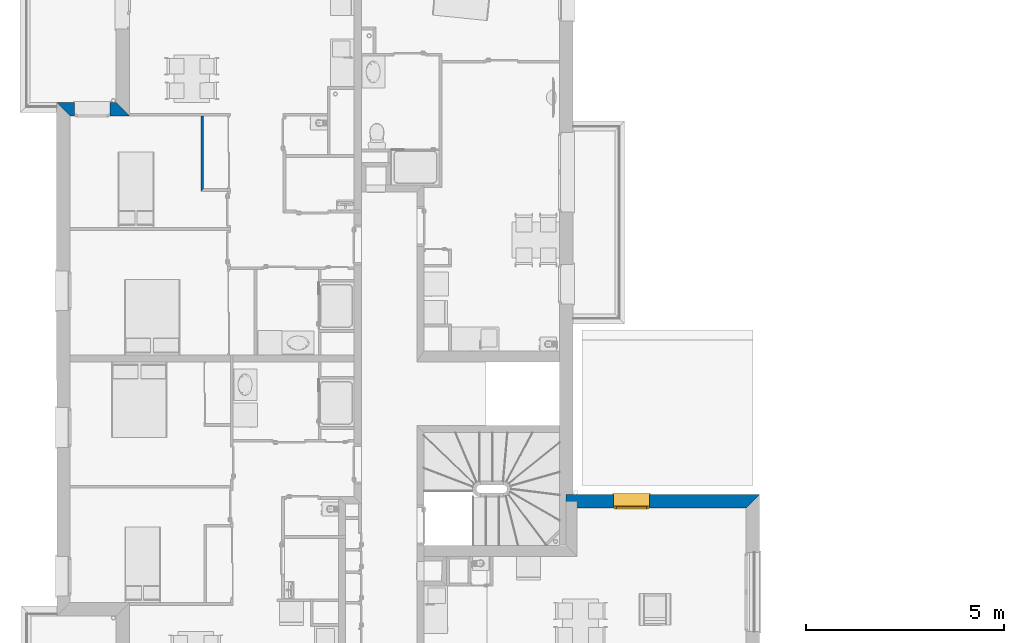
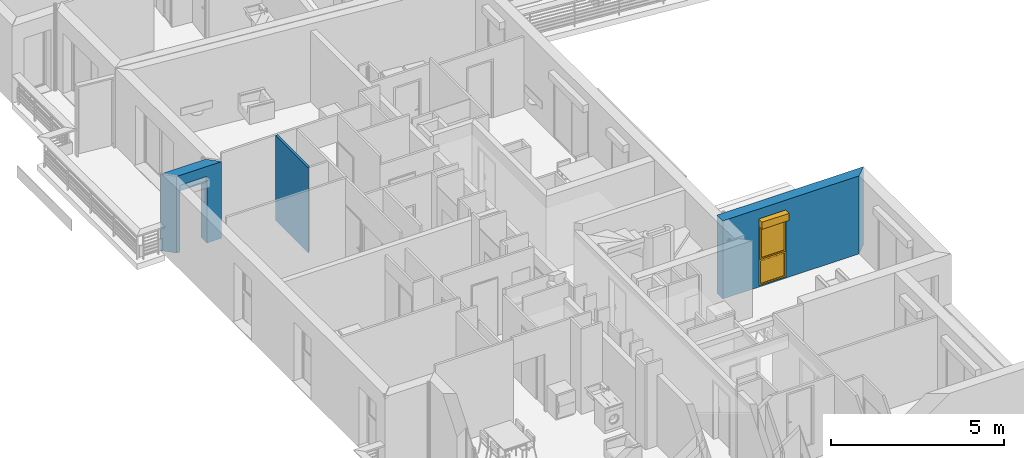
# One storey, part 40 of 164: 3 walls, 1 window, 2 openings.
"""IFC2X3 building model written with IfcOpenShell, lengths in millimetres."""

from ifc_helpers import new_model, entity, si_unit, converted_unit, derived_unit, money_unit, direction, frame, origin_with_axes, place, context, subcontext, project, spatial, polyline, outline, extrude, open_shell, faceted_brep, surface_model, source, transform, mapped, material, layer, layer_set, layer_usage, type_object, element, fill, save


model = new_model("IFC2X3")

# Units and contexts
model_context = context("Model", 3, precision=0.01, world=origin_with_axes(), true_north=direction((0.0, 1.0)))
body_context = subcontext(model_context, "Body", "Model", "MODEL_VIEW")
ifc_project = project(units=[si_unit("LENGTHUNIT", "METRE", prefix="MILLI"), si_unit("AREAUNIT", "SQUARE_METRE"), si_unit("VOLUMEUNIT", "CUBIC_METRE"), converted_unit("PLANEANGLEUNIT", "DEGREE", entity("IfcPlaneAngleMeasure", 0.0174532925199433), si_unit("PLANEANGLEUNIT", "RADIAN"), dimensions=[0, 0, 0, 0, 0, 0, 0]), money_unit("USD"), converted_unit("TIMEUNIT", "Year", entity("IfcTimeMeasure", 31557600.0), si_unit("TIMEUNIT", "SECOND"), dimensions=[0, 0, 1, 0, 0, 0, 0]), si_unit("MASSUNIT", "GRAM", prefix="KILO"), si_unit("THERMODYNAMICTEMPERATUREUNIT", "DEGREE_CELSIUS"), si_unit("LUMINOUSINTENSITYUNIT", "LUMEN"), si_unit("ENERGYUNIT", "JOULE", prefix="MEGA"), derived_unit("THERMALCONDUCTANCEUNIT", [(si_unit("POWERUNIT", "WATT"), 1), (si_unit("LENGTHUNIT", "METRE"), -1), (si_unit("THERMODYNAMICTEMPERATUREUNIT", "KELVIN"), -1)]), derived_unit("SPECIFICHEATCAPACITYUNIT", [(si_unit("ENERGYUNIT", "JOULE"), 1), (si_unit("MASSUNIT", "GRAM", prefix="KILO"), -1), (si_unit("THERMODYNAMICTEMPERATUREUNIT", "KELVIN"), -1)]), derived_unit("MASSDENSITYUNIT", [(si_unit("MASSUNIT", "GRAM", prefix="KILO"), 1), (si_unit("VOLUMEUNIT", "CUBIC_METRE"), -1)])], contexts=[model_context])

# Site, building, storey
site_placement = place(None, origin_with_axes())
site = spatial("IfcSite", under=ifc_project, at=site_placement, Name="Site", CompositionType="ELEMENT")
building_placement = place(site_placement, origin_with_axes())
building = spatial("IfcBuilding", under=site, at=building_placement, Name="Bâtiment", CompositionType="ELEMENT")
storey_placement = place(building_placement, frame((0.0, 0.0, 5750.0), z_axis=(0.0, 0.0, 1.0), x_axis=(1.0, 0.0, 0.0)))
storey = spatial("IfcBuildingStorey", under=building, at=storey_placement, Name="Etage1", CompositionType="ELEMENT", Elevation=5750.0)

# Wall
ifc_material_1 = material(Name="Hachure solide 268963992")
ifc_layer_1 = layer(ifc_material_1, 70.0, ventilated="UNKNOWN")
ifc_layer_set_1 = layer_set([ifc_layer_1], Name="Cloison 70 0826278243")
ifc_layer_usage_1 = layer_usage(ifc_layer_set_1, "AXIS2", "POSITIVE", -70.0)
wall_type_1 = type_object("IfcWallType", Name="Cloison 70 0826278243 70", PredefinedType="NOTDEFINED")
wall_1_placement = place(storey_placement, frame((2220270.8001164, -628310.7364227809, 0.0), z_axis=(0.0, 0.0, 1.0), x_axis=(8.945405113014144e-07, 0.9999999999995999, 0.0)))
element("IfcWallStandardCase", 1, at=wall_1_placement, inside=storey, type_object=wall_type_1, material=ifc_layer_usage_1, Name="Mur-149", context=body_context, shape_type="SweptSolid", body=[
    extrude(outline(polyline([(70.00007877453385, -70.00000000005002), (1899.522190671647, -69.99999999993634), (1899.522110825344, -1.13686837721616e-10), (0.0, 0.0), (70.00007877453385, -70.00000000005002)])), origin_with_axes(), (0.0, 0.0, 1.0), 3000.0),
])

# Wall, opening
ifc_material_2 = material(Name="Parpaing 312445824")
ifc_layer_2 = layer(ifc_material_2, 180.0, ventilated="UNKNOWN")
ifc_material_3 = material(Name="Isolant styromousse 301821074")
ifc_layer_3 = layer(ifc_material_3, 160.0, ventilated="UNKNOWN")
ifc_layer_set_2 = layer_set([ifc_layer_2, ifc_layer_3], Name="isol int 18+16 0018356637")
ifc_layer_usage_2 = layer_usage(ifc_layer_set_2, "AXIS2", "NEGATIVE", 0.0)
wall_type_2 = type_object("IfcWallType", Name="isol int 18+16 0018356637 340", PredefinedType="NOTDEFINED")
wall_2_placement = place(storey_placement, frame((2216634.235568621, -626071.2141322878, 0.0), z_axis=(0.0, 0.0, 1.0), x_axis=(1.0, 0.0, 0.0)))
wall_2 = element("IfcWallStandardCase", 2, at=wall_2_placement, inside=storey, type_object=wall_type_2, material=ifc_layer_usage_2, Name="Mur-142", context=body_context, shape_type="SweptSolid", body=[
    extrude(outline(polyline([(340.0024412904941, -340.0000000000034), (1840.00014514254, -340.0000000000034), (1500.000000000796, 0.0), (0.0004381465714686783, 0.0), (340.0024412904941, -340.0000000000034)])), origin_with_axes(), (0.0, 0.0, 1.0), 2700.0),
])
opening_1_placement = place(wall_2_placement, frame((896.3630386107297, 0.0, 0.0), z_axis=(0.0, 0.0, 1.0), x_axis=(1.0, 0.0, 0.0)))
element("IfcOpeningElement", 3, at=opening_1_placement, cuts=wall_2, Name="Fen-208", context=body_context, shape_type="Brep", body=[
    faceted_brep([(-449.9999999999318, -279.999999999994, 2100.0), (450.0000000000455, -279.9999999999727, 2100.0), (450.0000000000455, 1.000000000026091, 2100.0), (-450.0000000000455, 1.000000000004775, 2100.0), (-449.9999999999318, -279.999999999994, 2350.0), (450.0000000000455, -279.9999999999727, 2350.0), (450.0000000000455, -289.9999999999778, 2100.0), (450.0000000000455, -289.9999999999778, 0.0), (450.0000000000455, 1.000000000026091, 0.0), (-450.0000000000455, 1.000000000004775, 0.0), (-449.9999999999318, -289.9999999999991, 2100.0), (-450.0000000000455, -289.9999999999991, 0.0), (-449.9999999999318, -341.0000000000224, 2100.0), (-449.9999999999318, -529.9999999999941, 2100.0), (-449.9999999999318, -529.9999999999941, 2350.0), (450.0000000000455, -529.9999999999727, 2350.0), (450.0000000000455, -529.9999999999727, 2100.0), (450.0000000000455, -341.0000000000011, 2100.0), (450.0000000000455, -341.0000000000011, 0.0), (-450.0000000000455, -341.0000000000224, 0.0)], [[[0, 1, 2, 3]], [[1, 0, 4, 5]], [[1, 6, 7, 8, 2]], [[2, 8, 9, 3]], [[10, 0, 3, 9, 11]], [[0, 10, 12, 13, 14, 4]], [[4, 14, 15, 5]], [[6, 1, 5, 15, 16, 17]], [[6, 17, 18, 7]], [[11, 9, 8, 7, 18, 19]], [[12, 10, 11, 19]], [[12, 17, 16, 13]], [[14, 13, 16, 15]], [[17, 12, 19, 18]]]),
])

# Wall, opening, window
ifc_layer_usage_3 = layer_usage(ifc_layer_set_2, "AXIS2", "NEGATIVE", 0.0)
wall_3_placement = place(storey_placement, frame((2229473.476036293, -635953.3438947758, 0.0), z_axis=(0.0, 0.0, 1.0), x_axis=(1.0, 0.0, 0.0)))
wall_3 = element("IfcWallStandardCase", 4, at=wall_3_placement, inside=storey, type_object=wall_type_2, material=ifc_layer_usage_3, Name="Mur-142", context=body_context, shape_type="SweptSolid", body=[
    extrude(outline(polyline([(0.0, -340.0000000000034), (4543.195260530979, -340.0000000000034), (4883.195260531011, 0.0), (0.0, 0.0), (0.0, -340.0000000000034)])), origin_with_axes(), (0.0, 0.0, 1.0), 2750.0),
])
opening_2_placement = place(wall_3_placement, frame((1652.094160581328, 0.0, 49.99999999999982), z_axis=(0.0, 0.0, 1.0), x_axis=(1.0, 0.0, 0.0)))
opening_2 = element("IfcOpeningElement", 5, at=opening_2_placement, cuts=wall_3, Name="Fen-133", context=body_context, shape_type="Brep", body=[
    faceted_brep([(-449.9999999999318, -280.0000000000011, 2100.0), (450.0000000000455, -280.0000000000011, 2100.0), (450.0000000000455, 1.000000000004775, 2100.0), (-450.0000000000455, 1.000000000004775, 2100.0), (-449.9999999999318, -280.0000000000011, 2350.0), (450.0000000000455, -280.0000000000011, 2350.0), (450.0000000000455, -290.0000000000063, 2100.0), (450.0000000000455, -290.0000000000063, 0.0), (450.0000000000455, 1.000000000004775, 0.0), (-450.0000000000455, 1.000000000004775, 0.0), (-449.9999999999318, -290.0000000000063, 2100.0), (-450.0000000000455, -290.0000000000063, 0.0), (-449.9999999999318, -341.0000000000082, 2100.0), (-449.9999999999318, -530.0000000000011, 2100.0), (-449.9999999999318, -530.0000000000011, 2350.0), (450.0000000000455, -530.0000000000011, 2350.0), (450.0000000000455, -530.0000000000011, 2100.0), (450.0000000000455, -341.0000000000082, 2100.0), (450.0000000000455, -341.0000000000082, 0.0), (-450.0000000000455, -341.0000000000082, 0.0)], [[[0, 1, 2, 3]], [[1, 0, 4, 5]], [[1, 6, 7, 8, 2]], [[2, 8, 9, 3]], [[10, 0, 3, 9, 11]], [[0, 10, 12, 13, 14, 4]], [[4, 14, 15, 5]], [[6, 1, 5, 15, 16, 17]], [[6, 17, 18, 7]], [[11, 9, 8, 7, 18, 19]], [[12, 10, 11, 19]], [[12, 17, 16, 13]], [[14, 13, 16, 15]], [[17, 12, 19, 18]]]),
])
window_style = type_object("IfcWindowStyle", Name="Fenêtre 27", ConstructionType="NOTDEFINED", OperationType="DOUBLE_PANEL_HORIZONTAL", ParameterTakesPrecedence=False, Sizeable=False)
shared_shape = source(origin_with_axes(), body_context, "Body", "SurfaceModel", [
    surface_model("IfcShellBasedSurfaceModel", [(450.0, -51.00000000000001, 40.00000000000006), (450.0, -51.00000000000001, 50.00000000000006), (-450.0, -51.00000000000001, 50.0), (-450.0, -51.00000000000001, 40.0), (480.0, -369.9999999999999, 28.96551724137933), (480.0, -339.9999999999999, 30.00324289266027), (450.0, -339.9999999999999, 30.00324289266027), (-450.0, -339.9999999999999, 30.00324289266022), (-480.0, -339.9999999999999, 30.00324289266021), (-480.0, -369.9999999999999, 28.96551724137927), (480.0, -369.9999999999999, 8.965517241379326), (-480.0, -369.9999999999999, 8.965517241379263), (480.0, -359.9999999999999, 18.96551724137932), (-480.0, -359.9999999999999, 18.96551724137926)], [open_shell([[[0, 1, 2, 3]], [[4, 5, 6, 0, 3, 7, 8, 9]], [[10, 4, 9, 11]], [[12, 10, 11, 13]]])]),
    faceted_brep([(-450.0, -59.99999999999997, 2350.0), (-447.0, -59.99999999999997, 2350.0), (-447.0, 190.0, 2350.0), (-450.0, 190.0, 2350.0), (-450.0, -59.99999999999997, 2100.0), (-447.0, -59.99999999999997, 2100.0), (-447.0, 190.0, 2100.0), (-450.0, 190.0, 2100.0)], [[[0, 1, 2, 3]], [[4, 5, 1, 0]], [[1, 5, 6, 2]], [[3, 2, 6, 7]], [[0, 3, 7, 4]], [[7, 6, 5, 4]]]),
    faceted_brep([(447.0, -59.99999999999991, 2350.0), (450.0, -59.99999999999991, 2350.0), (450.0, 190.0000000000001, 2350.0), (447.0, 190.0000000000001, 2350.0), (447.0, -59.99999999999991, 2100.0), (450.0, -59.99999999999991, 2100.0), (450.0, 190.0000000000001, 2100.0), (447.0, 190.0000000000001, 2100.0)], [[[0, 1, 2, 3]], [[4, 5, 1, 0]], [[1, 5, 6, 2]], [[3, 2, 6, 7]], [[0, 3, 7, 4]], [[7, 6, 5, 4]]]),
    faceted_brep([(-447.0, -59.99999999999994, 2100.0), (447.0, -59.99999999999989, 2100.0), (447.0, -59.99999999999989, 2350.0), (-447.0, -59.99999999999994, 2350.0), (-447.0, -56.99999999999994, 2100.0), (447.0, -56.99999999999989, 2100.0), (447.0, -56.99999999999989, 2347.0), (447.0, 187.0000000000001, 2347.0), (447.0, 187.0000000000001, 2103.0), (447.0, -37.99999999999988, 2103.0), (447.0, -37.99999999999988, 2100.0), (447.0, 190.0000000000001, 2100.0), (447.0, 190.0000000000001, 2350.0), (-447.0, 190.0000000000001, 2350.0), (-447.0, 190.0000000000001, 2100.0), (-447.0, -37.99999999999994, 2100.0), (-447.0, -37.99999999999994, 2103.0), (-447.0, 187.0000000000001, 2103.0), (-447.0, 187.0000000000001, 2347.0), (-447.0, -56.99999999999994, 2347.0)], [[[0, 1, 2, 3]], [[4, 5, 1, 0]], [[1, 5, 6, 7, 8, 9, 10, 11, 12, 2]], [[3, 2, 12, 13]], [[0, 3, 13, 14, 15, 16, 17, 18, 19, 4]], [[19, 6, 5, 4]], [[18, 7, 6, 19]], [[17, 8, 7, 18]], [[16, 9, 8, 17]], [[15, 10, 9, 16]], [[14, 11, 10, 15]], [[13, 12, 11, 14]]]),
    faceted_brep([(-444.0, -40.374429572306, 2206.419644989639), (-444.0, -41.99999999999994, 2225.0), (-444.0, -40.37442957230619, 2243.580355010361), (-444.0, -35.54711042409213, 2261.596155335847), (-444.0, -27.66471820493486, 2278.5), (-444.0, -16.96675541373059, 2293.77827423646), (-444.0, -3.778274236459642, 2306.966755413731), (-444.0, 11.50000000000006, 2317.664718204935), (-444.0, 28.4038446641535, 2325.547110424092), (-444.0, 46.4196449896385, 2330.374429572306), (-444.0, 65.00000000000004, 2332.0), (-444.0, 83.58035501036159, 2330.374429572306), (-444.0, 101.5961553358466, 2325.547110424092), (-444.0, 118.5, 2317.664718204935), (-444.0, 133.7782742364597, 2306.966755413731), (-444.0, 146.9667554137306, 2293.77827423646), (-444.0, 157.6647182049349, 2278.5), (-444.0, 165.5471104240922, 2261.596155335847), (-444.0, 170.3744295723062, 2243.580355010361), (-444.0, 172.0, 2225.0), (-444.0, 170.3744295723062, 2206.419644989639), (-444.0, 165.5471104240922, 2188.403844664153), (-444.0, 157.6647182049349, 2171.5), (-444.0, 146.9667554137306, 2156.22172576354), (-444.0, 133.7782742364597, 2143.03324458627), (-444.0, 118.5, 2132.335281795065), (-444.0, 101.5961553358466, 2124.452889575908), (-444.0, 83.5803550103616, 2119.625570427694), (-444.0, 65.00000000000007, 2118.0), (-444.0, 46.41964498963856, 2119.625570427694), (-444.0, 28.40384466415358, 2124.452889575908), (-444.0, 11.50000000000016, 2132.335281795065), (-444.0, -3.778274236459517, 2143.03324458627), (-444.0, -16.96675541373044, 2156.22172576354), (-444.0, -27.6647182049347, 2171.5), (-444.0, -35.54711042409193, 2188.403844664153), (444.0, -40.37442957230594, 2206.419644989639), (444.0, -41.99999999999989, 2225.0), (444.0, -40.37442957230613, 2243.580355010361), (444.0, -35.54711042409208, 2261.596155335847), (444.0, -27.66471820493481, 2278.5), (444.0, -16.96675541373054, 2293.77827423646), (444.0, -3.778274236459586, 2306.966755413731), (444.0, 11.50000000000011, 2317.664718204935), (444.0, 28.40384466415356, 2325.547110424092), (444.0, 46.41964498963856, 2330.374429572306), (444.0, 65.0000000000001, 2332.0), (444.0, 83.58035501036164, 2330.374429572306), (444.0, 101.5961553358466, 2325.547110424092), (444.0, 118.5000000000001, 2317.664718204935), (444.0, 133.7782742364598, 2306.966755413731), (444.0, 146.9667554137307, 2293.77827423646), (444.0, 157.664718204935, 2278.5), (444.0, 165.5471104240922, 2261.596155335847), (444.0, 170.3744295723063, 2243.580355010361), (444.0, 172.0, 2225.0), (444.0, 170.3744295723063, 2206.419644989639), (444.0, 165.5471104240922, 2188.403844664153), (444.0, 157.6647182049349, 2171.5), (444.0, 146.9667554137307, 2156.22172576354), (444.0, 133.7782742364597, 2143.03324458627), (444.0, 118.5000000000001, 2132.335281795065), (444.0, 101.5961553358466, 2124.452889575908), (444.0, 83.58035501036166, 2119.625570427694), (444.0, 65.00000000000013, 2118.0), (444.0, 46.41964498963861, 2119.625570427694), (444.0, 28.40384466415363, 2124.452889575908), (444.0, 11.50000000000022, 2132.335281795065), (444.0, -3.778274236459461, 2143.03324458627), (444.0, -16.96675541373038, 2156.22172576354), (444.0, -27.66471820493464, 2171.5), (444.0, -35.54711042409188, 2188.403844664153)], [[[0, 1, 2, 3, 4, 5, 6, 7, 8, 9, 10, 11, 12, 13, 14, 15, 16, 17, 18, 19, 20, 21, 22, 23, 24, 25, 26, 27, 28, 29, 30, 31, 32, 33, 34, 35]], [[0, 36, 37, 1]], [[1, 37, 38, 2]], [[2, 38, 39, 3]], [[3, 39, 40, 4]], [[4, 40, 41, 5]], [[5, 41, 42, 6]], [[6, 42, 43, 7]], [[7, 43, 44, 8]], [[8, 44, 45, 9]], [[9, 45, 46, 10]], [[10, 46, 47, 11]], [[11, 47, 48, 12]], [[12, 48, 49, 13]], [[13, 49, 50, 14]], [[14, 50, 51, 15]], [[15, 51, 52, 16]], [[16, 52, 53, 17]], [[17, 53, 54, 18]], [[18, 54, 55, 19]], [[19, 55, 56, 20]], [[20, 56, 57, 21]], [[21, 57, 58, 22]], [[22, 58, 59, 23]], [[23, 59, 60, 24]], [[24, 60, 61, 25]], [[25, 61, 62, 26]], [[26, 62, 63, 27]], [[27, 63, 64, 28]], [[28, 64, 65, 29]], [[29, 65, 66, 30]], [[30, 66, 67, 31]], [[31, 67, 68, 32]], [[32, 68, 69, 33]], [[33, 69, 70, 34]], [[34, 70, 71, 35]], [[35, 71, 36, 0]], [[36, 71, 70, 69, 68, 67, 66, 65, 64, 63, 62, 61, 60, 59, 58, 57, 56, 55, 54, 53, 52, 51, 50, 49, 48, 47, 46, 45, 44, 43, 42, 41, 40, 39, 38, 37]]]),
    faceted_brep([(450.0, -34.99999999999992, 30.0), (450.0, -34.99999999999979, 2100.0), (450.0, -59.99999999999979, 2100.0), (450.0, -59.99999999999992, 30.0), (425.0, -34.99999999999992, 30.0), (425.0, -34.99999999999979, 2100.0), (425.0, -37.99999999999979, 2100.0), (447.0, -37.99999999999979, 2100.0), (447.0, -56.99999999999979, 2100.0), (425.0, -56.99999999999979, 2100.0), (425.0, -59.99999999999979, 2100.0), (425.0, -59.99999999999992, 30.0), (425.0, -56.99999999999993, 30.0), (447.0, -56.99999999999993, 30.0), (447.0, -37.99999999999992, 30.0), (425.0, -37.99999999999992, 30.0)], [[[0, 1, 2, 3]], [[4, 5, 1, 0]], [[1, 5, 6, 7, 8, 9, 10, 2]], [[3, 2, 10, 11]], [[0, 3, 11, 12, 13, 14, 15, 4]], [[15, 6, 5, 4]], [[14, 7, 6, 15]], [[13, 8, 7, 14]], [[12, 9, 8, 13]], [[11, 10, 9, 12]]]),
    faceted_brep([(-450.0, -34.99999999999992, 30.0), (-450.0, -59.99999999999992, 30.0), (-450.0, -59.99999999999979, 2100.0), (-450.0, -34.99999999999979, 2100.0), (-425.0, -34.99999999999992, 30.0), (-425.0, -37.99999999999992, 30.0), (-447.0, -37.99999999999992, 30.0), (-447.0, -56.99999999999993, 30.0), (-425.0, -56.99999999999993, 30.0), (-425.0, -59.99999999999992, 30.0), (-425.0, -59.99999999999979, 2100.0), (-425.0, -56.99999999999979, 2100.0), (-447.0, -56.99999999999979, 2100.0), (-447.0, -37.99999999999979, 2100.0), (-425.0, -37.99999999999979, 2100.0), (-425.0, -34.99999999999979, 2100.0)], [[[0, 1, 2, 3]], [[0, 4, 5, 6, 7, 8, 9, 1]], [[1, 9, 10, 2]], [[3, 2, 10, 11, 12, 13, 14, 15]], [[4, 0, 3, 15]], [[5, 4, 15, 14]], [[6, 5, 14, 13]], [[7, 6, 13, 12]], [[8, 7, 12, 11]], [[9, 8, 11, 10]]]),
    faceted_brep([(447.0, -46.66666666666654, 2225.0), (447.0, -46.66666666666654, 2216.666666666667), (-447.0, -46.6666666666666, 2216.666666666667), (-447.0, -46.6666666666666, 2225.0), (447.0, -51.66666666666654, 2225.0), (447.0, -51.66666666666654, 2216.666666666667), (447.0, -49.99999999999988, 2200.0), (447.0, -44.99999999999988, 2200.0), (-447.0, -44.99999999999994, 2200.0), (-447.0, -49.99999999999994, 2200.0), (-447.0, -51.6666666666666, 2216.666666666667), (-447.0, -51.6666666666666, 2225.0)], [[[0, 1, 2, 3]], [[4, 5, 6, 7, 1, 0]], [[2, 1, 7, 8]], [[3, 2, 8, 9, 10, 11]], [[3, 11, 4, 0]], [[10, 5, 4, 11]], [[9, 6, 5, 10]], [[8, 7, 6, 9]]]),
    faceted_brep([(-447.0, -44.99999999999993, 2200.0), (447.0, -44.99999999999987, 2200.0), (447.0, -46.66666666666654, 2183.333333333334), (-447.0, -46.6666666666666, 2183.333333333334), (-447.0, -49.99999999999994, 2200.0), (447.0, -49.99999999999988, 2200.0), (447.0, -51.66666666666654, 2183.333333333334), (447.0, -51.66666666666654, 2166.666666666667), (447.0, -49.99999999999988, 2150.000000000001), (447.0, -44.99999999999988, 2150.000000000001), (447.0, -46.66666666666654, 2166.666666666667), (-447.0, -46.6666666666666, 2166.666666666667), (-447.0, -44.99999999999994, 2150.000000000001), (-447.0, -49.99999999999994, 2150.000000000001), (-447.0, -51.6666666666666, 2166.666666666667), (-447.0, -51.6666666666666, 2183.333333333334)], [[[0, 1, 2, 3]], [[4, 5, 1, 0]], [[1, 5, 6, 7, 8, 9, 10, 2]], [[3, 2, 10, 11]], [[0, 3, 11, 12, 13, 14, 15, 4]], [[15, 6, 5, 4]], [[14, 7, 6, 15]], [[13, 8, 7, 14]], [[12, 9, 8, 13]], [[11, 10, 9, 12]]]),
    faceted_brep([(-447.0, -44.99999999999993, 2150.000000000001), (447.0, -44.99999999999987, 2150.000000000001), (447.0, -46.66666666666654, 2133.333333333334), (-447.0, -46.6666666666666, 2133.333333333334), (-447.0, -49.99999999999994, 2150.000000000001), (447.0, -49.99999999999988, 2150.000000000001), (447.0, -51.66666666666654, 2133.333333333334), (447.0, -51.66666666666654, 2116.666666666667), (447.0, -49.99999999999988, 2100.000000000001), (447.0, -44.99999999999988, 2100.000000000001), (447.0, -46.66666666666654, 2116.666666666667), (-447.0, -46.6666666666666, 2116.666666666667), (-447.0, -44.99999999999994, 2100.000000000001), (-447.0, -49.99999999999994, 2100.000000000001), (-447.0, -51.6666666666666, 2116.666666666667), (-447.0, -51.6666666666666, 2133.333333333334)], [[[0, 1, 2, 3]], [[4, 5, 1, 0]], [[1, 5, 6, 7, 8, 9, 10, 2]], [[3, 2, 10, 11]], [[0, 3, 11, 12, 13, 14, 15, 4]], [[15, 6, 5, 4]], [[14, 7, 6, 15]], [[13, 8, 7, 14]], [[12, 9, 8, 13]], [[11, 10, 9, 12]]]),
    faceted_brep([(-425.0000000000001, 0.0, 2050.0), (-450.0, 0.0, 2050.0), (-450.0, -50.00000000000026, 2050.0), (-400.0, -50.00000000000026, 2050.0), (-400.0, -25.00000000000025, 2050.0), (-425.0000000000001, -25.00000000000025, 2050.0), (-425.0000000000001, 0.0, 925.0), (-400.0, 0.0, 925.0), (-400.0, 0.0, 850.0), (-400.0, 0.0, 50.00000000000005), (-450.0, 0.0, 50.00000000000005), (-450.0, -50.00000000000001, 50.00000000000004), (-400.0, -50.00000000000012, 950.0000000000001), (-400.0, -50.00000000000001, 50.00000000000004), (-400.0, -50.00000000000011, 850.0), (-400.0, -25.00000000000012, 950.0000000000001), (-400.0, -25.00000000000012, 925.0), (-425.0000000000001, -25.00000000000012, 925.0)], [[[0, 1, 2, 3, 4, 5]], [[6, 7, 8, 9, 10, 1, 0]], [[1, 10, 11, 2]], [[12, 3, 2, 11, 13, 14]], [[4, 3, 12, 15]], [[15, 16, 17, 5, 4]], [[5, 17, 6, 0]], [[6, 17, 16, 7]], [[16, 15, 12, 14, 8, 7]], [[9, 8, 14, 13]], [[10, 9, 13, 11]]]),
    faceted_brep([(400.0, -25.00000000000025, 2050.0), (400.0, -50.00000000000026, 2050.0), (450.0, -50.00000000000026, 2050.0), (450.0, 0.0, 2050.0), (425.0000000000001, 0.0, 2050.0), (425.0000000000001, -25.00000000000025, 2050.0), (400.0, -25.00000000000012, 950.0000000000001), (400.0, -50.00000000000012, 950.0000000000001), (450.0, -50.00000000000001, 50.00000000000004), (400.0, -50.00000000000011, 850.0), (400.0, -50.00000000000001, 50.00000000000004), (450.0, 0.0, 50.00000000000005), (425.0000000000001, 0.0, 925.0), (400.0, 0.0, 50.00000000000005), (400.0, 0.0, 850.0), (400.0, 0.0, 925.0), (425.0000000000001, -25.00000000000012, 925.0), (400.0, -25.00000000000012, 925.0)], [[[0, 1, 2, 3, 4, 5]], [[6, 7, 1, 0]], [[8, 2, 1, 7, 9, 10]], [[11, 3, 2, 8]], [[12, 4, 3, 11, 13, 14, 15]], [[12, 16, 5, 4]], [[5, 16, 17, 6, 0]], [[17, 15, 14, 9, 7, 6]], [[14, 13, 10, 9]], [[13, 11, 8, 10]], [[15, 17, 16, 12]]]),
    faceted_brep([(-400.0, -25.00000000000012, 950.0000000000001), (-400.0, -50.00000000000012, 950.0000000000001), (400.0, -50.00000000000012, 950.0000000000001), (400.0, -25.00000000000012, 950.0000000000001), (-400.0, -25.00000000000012, 925.0), (-400.0, 0.0, 925.0), (-400.0, 0.0, 850.0), (-400.0, -50.00000000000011, 850.0), (400.0, -50.00000000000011, 850.0), (400.0, -25.00000000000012, 925.0), (400.0, 0.0, 850.0), (400.0, 0.0, 925.0)], [[[0, 1, 2, 3]], [[4, 5, 6, 7, 1, 0]], [[8, 2, 1, 7]], [[9, 3, 2, 8, 10, 11]], [[9, 4, 0, 3]], [[5, 4, 9, 11]], [[11, 10, 6, 5]], [[6, 10, 8, 7]]]),
    faceted_brep([(-425.0000000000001, 0.0, 2050.0), (-450.0, 0.0, 2050.0), (-450.0, 0.0, 2100.0), (450.0, 0.0, 2100.0), (450.0, 0.0, 2050.0), (425.0000000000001, 0.0, 2050.0), (425.0000000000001, 0.0, 2075.0), (-425.0000000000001, 0.0, 2075.0), (-425.0000000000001, -25.00000000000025, 2050.0), (-400.0, -25.00000000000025, 2050.0), (-400.0, -50.00000000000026, 2050.0), (-450.0, -50.00000000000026, 2050.0), (-450.0, -50.00000000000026, 2100.0), (450.0, -50.00000000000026, 2100.0), (450.0, -50.00000000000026, 2050.0), (425.0000000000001, -25.00000000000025, 2050.0), (400.0, -50.00000000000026, 2050.0), (400.0, -25.00000000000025, 2050.0), (425.0000000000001, -25.00000000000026, 2075.0), (-425.0000000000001, -25.00000000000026, 2075.0)], [[[0, 1, 2, 3, 4, 5, 6, 7]], [[8, 9, 10, 11, 1, 0]], [[2, 1, 11, 12]], [[3, 2, 12, 13]], [[4, 3, 13, 14]], [[15, 5, 4, 14, 16, 17]], [[5, 15, 18, 6]], [[6, 18, 19, 7]], [[7, 19, 8, 0]], [[17, 9, 8, 19, 18, 15]], [[17, 16, 10, 9]], [[14, 13, 12, 11, 10, 16]]]),
    faceted_brep([(-400.0, -50.00000000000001, 50.0), (-400.0, 0.0, 50.00000000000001), (-450.0, 0.0, 50.00000000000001), (-450.0, -50.00000000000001, 50.0), (400.0, -50.00000000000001, 50.0), (400.0, 0.0, 50.00000000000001), (450.0, 0.0, 50.00000000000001), (450.0, 0.0, 0.0), (-450.0, 0.0, 0.0), (-450.0, -50.0, 0.0), (450.0, -50.0, 0.0), (450.0, -50.00000000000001, 50.0)], [[[0, 1, 2, 3]], [[4, 5, 1, 0]], [[1, 5, 6, 7, 8, 2]], [[3, 2, 8, 9]], [[0, 3, 9, 10, 11, 4]], [[11, 6, 5, 4]], [[10, 7, 6, 11]], [[9, 8, 7, 10]]]),
    faceted_brep([(-375.0000000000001, -25.00000000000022, 2025.0), (-375.0000000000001, 24.99999999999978, 2025.0), (-425.0000000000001, 24.99999999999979, 2025.0), (-425.0000000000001, -25.00000000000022, 2025.0), (-375.0000000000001, -25.0000000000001, 975.0000000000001), (-375.0000000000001, 24.9999999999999, 975.0000000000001), (-425.0000000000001, 24.99999999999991, 975.0000000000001), (-425.0000000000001, -25.00000000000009, 975.0000000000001)], [[[0, 1, 2, 3]], [[4, 5, 1, 0]], [[1, 5, 6, 2]], [[3, 2, 6, 7]], [[0, 3, 7, 4]], [[7, 6, 5, 4]]]),
    faceted_brep([(375.0000000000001, -25.00000000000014, 975.0000000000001), (375.0000000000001, 24.99999999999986, 975.0000000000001), (425.0000000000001, 24.99999999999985, 975.0000000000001), (425.0000000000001, -25.00000000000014, 975.0000000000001), (375.0000000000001, -25.00000000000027, 2025.0), (375.0000000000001, 24.99999999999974, 2025.0), (425.0000000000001, 24.99999999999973, 2025.0), (425.0000000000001, -25.00000000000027, 2025.0)], [[[0, 1, 2, 3]], [[4, 5, 1, 0]], [[1, 5, 6, 2]], [[3, 2, 6, 7]], [[0, 3, 7, 4]], [[7, 6, 5, 4]]]),
    faceted_brep([(425.0000000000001, -25.00000000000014, 925.0), (425.0000000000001, 24.99999999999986, 925.0), (425.0000000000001, 24.99999999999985, 975.0000000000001), (425.0000000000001, -25.00000000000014, 975.0000000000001), (-425.0000000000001, -25.00000000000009, 925.0), (-425.0000000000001, 24.99999999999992, 925.0), (-425.0000000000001, 24.99999999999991, 975.0000000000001), (-375.0000000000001, 24.9999999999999, 975.0000000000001), (375.0000000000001, 24.99999999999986, 975.0000000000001), (375.0000000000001, -25.00000000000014, 975.0000000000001), (-375.0000000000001, -25.0000000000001, 975.0000000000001), (-425.0000000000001, -25.00000000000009, 975.0000000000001)], [[[0, 1, 2, 3]], [[4, 5, 1, 0]], [[1, 5, 6, 7, 8, 2]], [[3, 2, 8, 9]], [[0, 3, 9, 10, 11, 4]], [[11, 6, 5, 4]], [[10, 7, 6, 11]], [[9, 8, 7, 10]]]),
    faceted_brep([(-425.0000000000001, -25.00000000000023, 2075.0), (-425.0000000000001, 24.99999999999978, 2075.0), (-425.0000000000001, 24.99999999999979, 2025.0), (-425.0000000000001, -25.00000000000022, 2025.0), (425.0000000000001, -25.00000000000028, 2075.0), (425.0000000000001, 24.99999999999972, 2075.0), (425.0000000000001, 24.99999999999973, 2025.0), (375.0000000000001, 24.99999999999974, 2025.0), (-375.0000000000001, 24.99999999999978, 2025.0), (-375.0000000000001, -25.00000000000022, 2025.0), (375.0000000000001, -25.00000000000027, 2025.0), (425.0000000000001, -25.00000000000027, 2025.0)], [[[0, 1, 2, 3]], [[4, 5, 1, 0]], [[1, 5, 6, 7, 8, 2]], [[3, 2, 8, 9]], [[0, 3, 9, 10, 11, 4]], [[11, 6, 5, 4]], [[10, 7, 6, 11]], [[9, 8, 7, 10]]]),
    surface_model("IfcShellBasedSurfaceModel", [(-375.0000000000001, -10.00000000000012, 975.0000000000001), (375.0000000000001, -10.00000000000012, 975.0000000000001), (375.0000000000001, -10.00000000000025, 2025.0), (-375.0000000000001, -10.00000000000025, 2025.0)], [open_shell([[[0, 1, 2, 3]]])]),
    surface_model("IfcShellBasedSurfaceModel", [(-375.0000000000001, 9.999999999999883, 975.0000000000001), (-375.0000000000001, 9.999999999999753, 2025.0), (375.0000000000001, 9.999999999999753, 2025.0), (375.0000000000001, 9.999999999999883, 975.0000000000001)], [open_shell([[[0, 1, 2, 3]]])]),
    surface_model("IfcShellBasedSurfaceModel", [(-400.0, -35.0, 49.99999999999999), (400.0, -35.0, 49.99999999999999), (400.0, -35.0000000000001, 850.0), (-400.0, -35.0000000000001, 850.0)], [open_shell([[[0, 1, 2, 3]]])]),
    surface_model("IfcShellBasedSurfaceModel", [(-400.0, -15.0, 49.99999999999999), (-400.0, -15.0000000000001, 850.0), (400.0, -15.0000000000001, 850.0), (400.0, -15.0, 49.99999999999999)], [open_shell([[[0, 1, 2, 3]]])]),
])
window_placement = place(opening_2_placement, frame((450.0000000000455, 0.0, 0.0), z_axis=(0.0, 0.0, 1.0), x_axis=(-1.0, 0.0, 0.0)))
window = element("IfcWindow", 6, at=window_placement, inside=storey, type_object=window_style, Name="Fen-133", OverallHeight=2100.0, OverallWidth=900.0, context=body_context, shape_type="MappedRepresentation", body=[
    mapped(shared_shape, transform((450.0000000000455, 340.0000000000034, 0.0))),
])
fill(opening_2, window)

save(model, "model.ifc")
